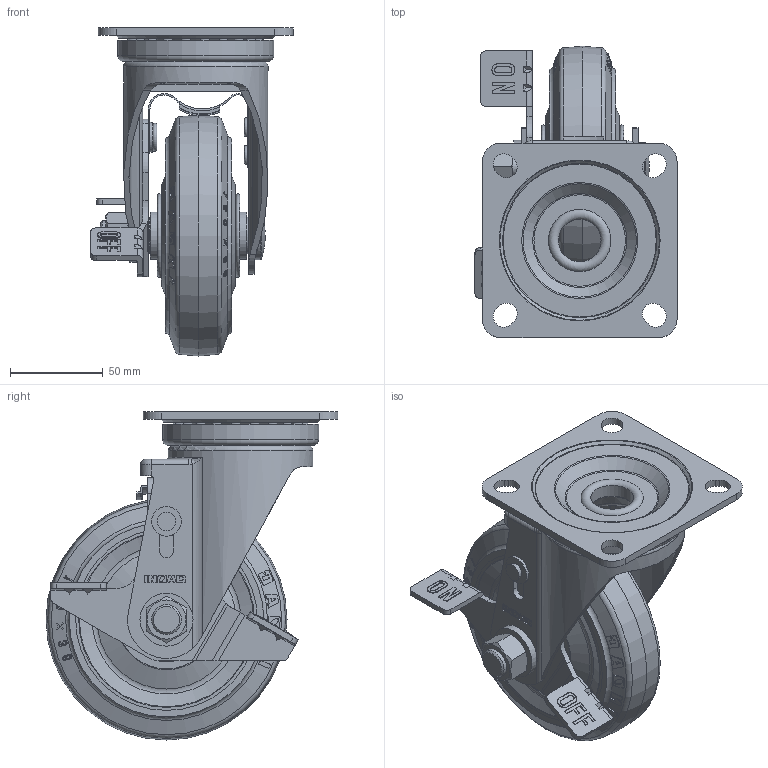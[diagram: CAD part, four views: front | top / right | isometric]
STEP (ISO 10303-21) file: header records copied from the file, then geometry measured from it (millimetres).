
FILE_DESCRIPTION( ( 'STEP AP214' ), '1' );
FILE_NAME( ' ', ' ', ( ' ' ), ( ' ' ), 'PSStep 10.0', ' ', ' ' );
FILE_SCHEMA( ( 'automotive_design' ) );
Length unit declared in the file: millimetre
Products named in the file (46): @32139; @34013; @34415; @35153; @35870; @36945; @37718; @37723; @37740; @37753; @37762; @38473; @40687; @40689; @40691; @40816; @40818; @40820; @40822; @40824; @40826; @40828; @40830; @40832; @40834; @40836; @40838; @40840; @40842; @40844; @40846; @40848; @40850; @40852; @40854; @40856; @40858; @40860; @40862; @40864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
Bounding box: 109 x 157.5 x 177 mm (x, y, z)
Volume: 384734 mm3; surface area: 259527.5 mm2
Topology: 89 solids, 89 shells, 1066 faces, 2614 edges, 1687 vertices
Faces by surface type: plane 276, bspline 243, cylinder 217, torus 95, extrusion 94, sphere 78, cone 61, offset 2
Full cylindrical faces by diameter (mm): 5 x6, 8 x4, 16 x2, 16.11 x2, 16.2 x2, 19.89 x1, 20 x1, 20.1 x2, 23 x1, 23.5 x2, 24 x1, 25.4 x4, 26.03 x2, 26.11 x1, 27 x3, 28.648 x1, 30 x3, 32.34 x2, 33.6 x4, 35.5 x2, 40 x4, 41.8 x2, 42 x2, 44.6 x2, 46.05 x1, 52.05 x2, 60.35 x1, 66.35 x1, 72 x1, 78 x1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
Entity records: 40943 total; most frequent: CARTESIAN_POINT 19269, ORIENTED_EDGE 4398, DIRECTION 3542, EDGE_CURVE 2199, VERTEX_POINT 1549, AXIS2_PLACEMENT_3D 1405, EDGE_LOOP 1373, FACE_OUTER_BOUND 1182
